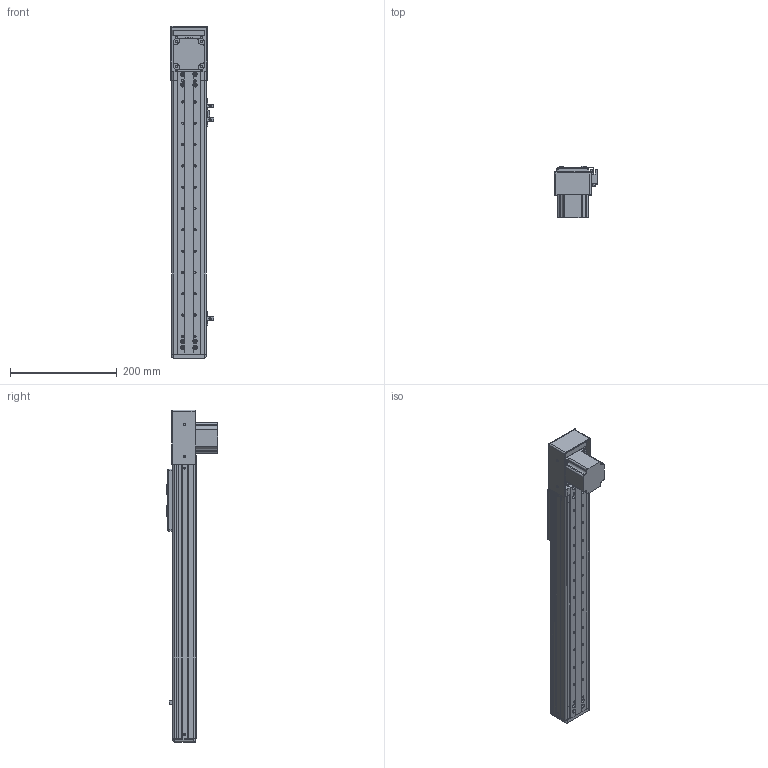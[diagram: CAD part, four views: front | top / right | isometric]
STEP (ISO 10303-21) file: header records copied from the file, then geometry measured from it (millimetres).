
FILE_DESCRIPTION (( 'STEP AP203' ), '1' );
FILE_NAME ('RY60F-T-350-DK.SLDASM_350.step', '2021-03-02T00:55:47', ( '盈信电脑' ), ( '东莞市道滘镇水果街19号' ), 'SwSTEP 2.0', 'SolidWorks 2012', '' );
FILE_SCHEMA (( 'CONFIG_CONTROL_DESIGN' ));
Length unit declared in the file: millimetre
Products named in the file (19): 滅袉蝶18-24; RY60F-T-57萇儂奻殏假蚾啣; RY60F-T-下折同步带拉紧板; RY60F-肮祭湍揤輸; RY50F-350-MR15W絳寢-DK_350; RY60F-T-350-DK.SLDASM_350; RY60F-T-狟殏欶; 57祭輛萇儂; RY60F-肮祭湍揤輸2; 覜茼ん672; RY60F-350肮祭湍俋褲-DK_350; RY60F-350-肮祭湍滅鳥詩え-DK_350; RY60F-嫖萇羲壽結え; RY60F-T-下折57电机端同步轮座; RY60F-祥凄詩滅鳥裔; RY50-60詩湍揤啣; RY60F-滅鳥詩え盓殤; RY60F-肮祭湍臏賑輸; RY60F-浮动端同步轮支撑座
Assembly tree (23 placements, depth 2):
  RY60F-T-350-DK.SLDASM_350
    RY60F-肮祭湍臏賑輸
    RY60F-浮动端同步轮支撑座
    RY60F-滅鳥詩え盓殤
    RY60F-嫖萇羲壽結え
    RY50-60詩湍揤啣  x2
    RY60F-祥凄詩滅鳥裔
    RY60F-T-下折57电机端同步轮座
    RY60F-350肮祭湍俋褲-DK_350  x2
    覜茼ん672  x3
    RY60F-350-肮祭湍滅鳥詩え-DK_350
    RY50F-350-MR15W絳寢-DK_350
    滅袉蝶18-24  x2
    RY60F-T-57萇儂奻殏假蚾啣
    RY60F-T-下折同步带拉紧板
    RY60F-肮祭湍揤輸
    RY60F-肮祭湍揤輸2
    57祭輛萇儂
    RY60F-T-狟殏欶
Bounding box: 80.76 x 96.5 x 623 mm (x, y, z)
Volume: 757369.4 mm3; surface area: 444405.2 mm2
Topology: 23 solids, 23 shells, 1150 faces, 3146 edges, 2020 vertices
Faces by surface type: plane 546, cylinder 523, cone 71, bspline 10
Entity records: 35241 total; most frequent: CARTESIAN_POINT 6409, DIRECTION 5664, ORIENTED_EDGE 5468, EDGE_CURVE 2734, AXIS2_PLACEMENT_3D 1983, VERTEX_POINT 1788, VECTOR 1698, LINE 1698
